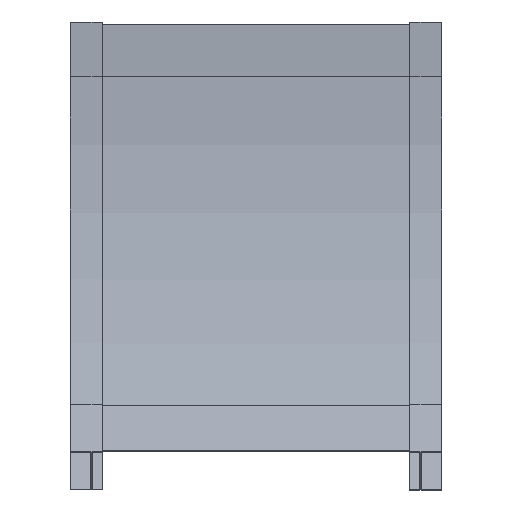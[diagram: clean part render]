
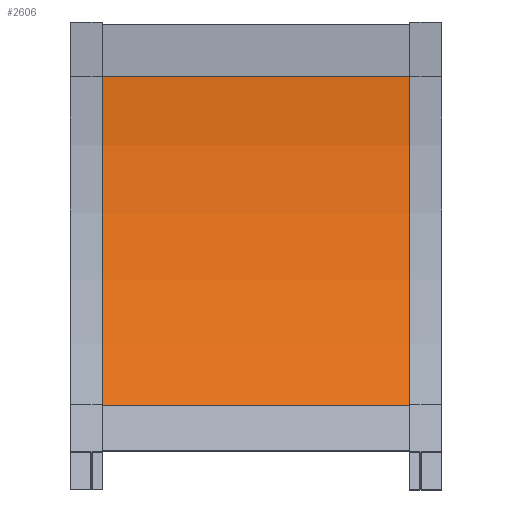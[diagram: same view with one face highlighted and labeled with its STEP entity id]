
A CAD part, front view. The second image highlights one B-rep face of the part: STEP entity #2606.
In plain terms, the highlighted cylindrical face has radius 916.94 mm (diameter 1833.88 mm), a partial arc.
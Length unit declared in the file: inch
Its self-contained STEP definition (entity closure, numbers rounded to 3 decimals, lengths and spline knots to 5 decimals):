
#2440=DIRECTION('',(-1.,0.,0.));
#2441=VECTOR('',#2440,17.875);
#2442=CARTESIAN_POINT('',(8.9375,0.,0.));
#2443=LINE('',#2442,#2441);
#2444=CARTESIAN_POINT('',(8.9375,36.1,0.));
#2445=DIRECTION('',(-1.,0.,0.));
#2446=DIRECTION('',(0.,-1.,0.));
#2447=AXIS2_PLACEMENT_3D('',#2444,#2445,#2446);
#2470=CARTESIAN_POINT('',(-8.9375,36.1,0.));
#2471=DIRECTION('',(-1.,0.,0.));
#2472=DIRECTION('',(0.,-1.,0.));
#2473=AXIS2_PLACEMENT_3D('',#2470,#2471,#2472);
#2496=DIRECTION('',(-1.,0.,0.));
#2497=VECTOR('',#2496,17.875);
#2498=CARTESIAN_POINT('',(8.9375,4.83648,18.05));
#2499=LINE('',#2498,#2497);
#2544=CARTESIAN_POINT('',(8.9375,0.,0.));
#2546=VERTEX_POINT('',#2544);
#2550=CARTESIAN_POINT('',(-8.9375,0.,0.));
#2551=VERTEX_POINT('',#2550);
#2560=CARTESIAN_POINT('',(8.9375,4.83648,18.05));
#2561=VERTEX_POINT('',#2560);
#2564=CARTESIAN_POINT('',(-8.9375,4.83648,18.05));
#2565=VERTEX_POINT('',#2564);
#2592=CARTESIAN_POINT('',(8.9375,36.1,0.));
#2593=DIRECTION('',(-1.,0.,0.));
#2594=DIRECTION('',(0.,0.,1.));
#2595=AXIS2_PLACEMENT_3D('',#2592,#2593,#2594);
#2596=CYLINDRICAL_SURFACE('',#2595,36.1);
#2598=ORIENTED_EDGE('',*,*,#2597,.T.);
#2600=ORIENTED_EDGE('',*,*,#2599,.T.);
#2602=ORIENTED_EDGE('',*,*,#2601,.F.);
#2603=ORIENTED_EDGE('',*,*,#2581,.F.);
#2604=EDGE_LOOP('',(#2598,#2600,#2602,#2603));
#2605=FACE_OUTER_BOUND('',#2604,.F.);
#2606=ADVANCED_FACE('',(#2605),#2596,.F.);
#2448=CIRCLE('',#2447,36.1);
#2474=CIRCLE('',#2473,36.1);
#2581=EDGE_CURVE('',#2546,#2551,#2443,.T.);
#2597=EDGE_CURVE('',#2546,#2561,#2448,.T.);
#2599=EDGE_CURVE('',#2561,#2565,#2499,.T.);
#2601=EDGE_CURVE('',#2551,#2565,#2474,.T.);
